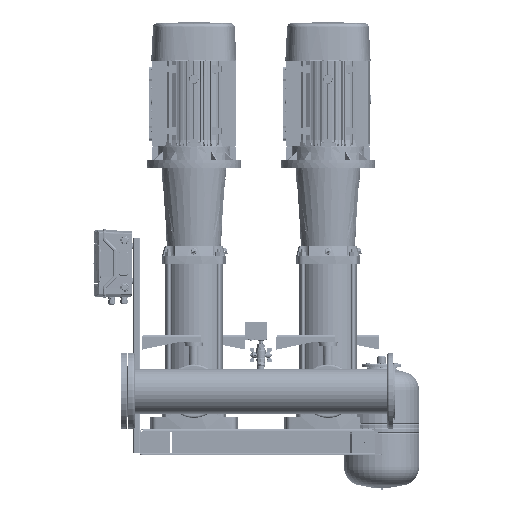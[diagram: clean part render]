
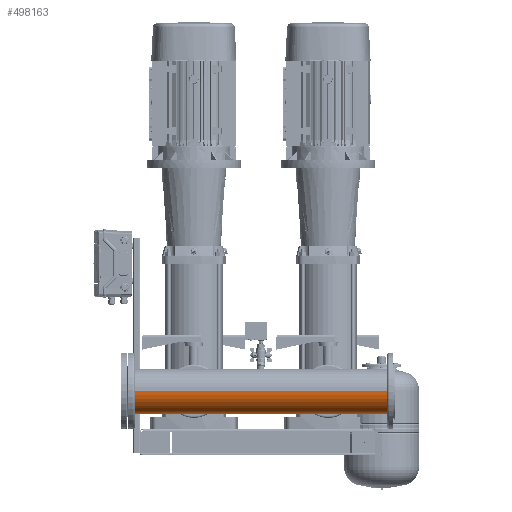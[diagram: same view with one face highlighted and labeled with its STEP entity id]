
A CAD part, front view. The second image highlights one B-rep face of the part: STEP entity #498163.
In plain terms, the highlighted cylindrical face has radius 84.15 mm (diameter 168.3 mm), a partial arc.
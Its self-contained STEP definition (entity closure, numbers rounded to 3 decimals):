
#497719=CARTESIAN_POINT('Vertex',(84.15,13.45,0.)) ;
#497726=CARTESIAN_POINT('Vertex',(84.15,-13.45,0.)) ;
#497730=CARTESIAN_POINT('Control Point',(84.15,13.45,0.)) ;
#497731=CARTESIAN_POINT('Control Point',(84.15,13.45,-2.294)) ;
#497732=CARTESIAN_POINT('Control Point',(84.072,12.961,-4.588)) ;
#497733=CARTESIAN_POINT('Control Point',(83.914,11.982,-6.738)) ;
#497734=CARTESIAN_POINT('Control Point',(83.513,9.057,-10.651)) ;
#497735=CARTESIAN_POINT('Control Point',(83.153,4.73,-12.969)) ;
#497736=CARTESIAN_POINT('Control Point',(83.036,2.218,-13.628)) ;
#497737=CARTESIAN_POINT('Control Point',(83.03,-2.819,-13.722)) ;
#497738=CARTESIAN_POINT('Control Point',(83.352,-7.382,-11.633)) ;
#497739=CARTESIAN_POINT('Control Point',(83.568,-9.344,-10.123)) ;
#497740=CARTESIAN_POINT('Control Point',(83.882,-11.727,-7.233)) ;
#497741=CARTESIAN_POINT('Control Point',(84.079,-13.004,-3.772)) ;
#497742=CARTESIAN_POINT('Control Point',(84.126,-13.301,-2.531)) ;
#497743=CARTESIAN_POINT('Control Point',(84.15,-13.45,-1.265)) ;
#497744=CARTESIAN_POINT('Control Point',(84.15,-13.45,0.)) ;
#497952=CARTESIAN_POINT('Axis2P3D Location',(0.,0.,0.)) ;
#497957=CARTESIAN_POINT('Line Origine',(84.15,0.,0.)) ;
#497961=CARTESIAN_POINT('Vertex',(84.15,205.55,0.)) ;
#497992=CARTESIAN_POINT('Vertex',(84.15,294.45,0.)) ;
#497995=CARTESIAN_POINT('Line Origine',(84.15,0.,0.)) ;
#497999=CARTESIAN_POINT('Vertex',(84.15,470.,0.)) ;
#498006=CARTESIAN_POINT('Vertex',(-84.15,470.,0.)) ;
#498009=CARTESIAN_POINT('Line Origine',(-84.15,0.,0.)) ;
#498013=CARTESIAN_POINT('Vertex',(-84.15,-470.,0.)) ;
#498020=CARTESIAN_POINT('Vertex',(84.15,-470.,0.)) ;
#498023=CARTESIAN_POINT('Line Origine',(84.15,0.,0.)) ;
#498027=CARTESIAN_POINT('Vertex',(84.15,-294.45,0.)) ;
#498058=CARTESIAN_POINT('Vertex',(84.15,-205.55,0.)) ;
#498061=CARTESIAN_POINT('Line Origine',(84.15,0.,0.)) ;
#498084=CARTESIAN_POINT('Control Point',(84.15,-205.55,0.)) ;
#498085=CARTESIAN_POINT('Control Point',(84.15,-205.55,-3.002)) ;
#498086=CARTESIAN_POINT('Control Point',(84.016,-205.803,-6.004)) ;
#498087=CARTESIAN_POINT('Control Point',(83.748,-206.31,-8.968)) ;
#498088=CARTESIAN_POINT('Control Point',(82.65,-208.419,-17.111)) ;
#498089=CARTESIAN_POINT('Control Point',(80.726,-212.326,-24.479)) ;
#498090=CARTESIAN_POINT('Control Point',(79.252,-215.497,-28.753)) ;
#498091=CARTESIAN_POINT('Control Point',(76.473,-222.162,-35.452)) ;
#498092=CARTESIAN_POINT('Control Point',(73.972,-230.372,-40.209)) ;
#498093=CARTESIAN_POINT('Control Point',(73.002,-234.259,-41.896)) ;
#498094=CARTESIAN_POINT('Control Point',(71.885,-240.535,-43.757)) ;
#498095=CARTESIAN_POINT('Control Point',(71.458,-247.08,-44.442)) ;
#498096=CARTESIAN_POINT('Control Point',(71.4,-249.36,-44.533)) ;
#498097=CARTESIAN_POINT('Control Point',(71.506,-256.235,-44.366)) ;
#498098=CARTESIAN_POINT('Control Point',(72.414,-262.951,-42.889)) ;
#498099=CARTESIAN_POINT('Control Point',(73.341,-267.228,-41.341)) ;
#498100=CARTESIAN_POINT('Control Point',(75.24,-274.026,-37.878)) ;
#498101=CARTESIAN_POINT('Control Point',(77.4,-279.873,-33.133)) ;
#498102=CARTESIAN_POINT('Control Point',(78.3,-282.109,-30.972)) ;
#498103=CARTESIAN_POINT('Control Point',(79.9,-285.835,-26.684)) ;
#498104=CARTESIAN_POINT('Control Point',(81.32,-288.853,-21.824)) ;
#498105=CARTESIAN_POINT('Control Point',(81.909,-290.063,-19.518)) ;
#498106=CARTESIAN_POINT('Control Point',(83.015,-292.28,-14.412)) ;
#498107=CARTESIAN_POINT('Control Point',(83.749,-293.691,-8.959)) ;
#498108=CARTESIAN_POINT('Control Point',(84.016,-294.197,-5.998)) ;
#498109=CARTESIAN_POINT('Control Point',(84.15,-294.45,-2.999)) ;
#498110=CARTESIAN_POINT('Control Point',(84.15,-294.45,0.)) ;
#498112=CARTESIAN_POINT('Axis2P3D Location',(0.,-470.,0.)) ;
#498117=CARTESIAN_POINT('Axis2P3D Location',(0.,470.,0.)) ;
#498123=CARTESIAN_POINT('Control Point',(84.15,294.45,0.)) ;
#498124=CARTESIAN_POINT('Control Point',(84.15,294.45,-3.002)) ;
#498125=CARTESIAN_POINT('Control Point',(84.016,294.197,-6.004)) ;
#498126=CARTESIAN_POINT('Control Point',(83.748,293.69,-8.968)) ;
#498127=CARTESIAN_POINT('Control Point',(82.65,291.581,-17.111)) ;
#498128=CARTESIAN_POINT('Control Point',(80.726,287.674,-24.479)) ;
#498129=CARTESIAN_POINT('Control Point',(79.252,284.503,-28.753)) ;
#498130=CARTESIAN_POINT('Control Point',(76.473,277.838,-35.452)) ;
#498131=CARTESIAN_POINT('Control Point',(73.972,269.628,-40.209)) ;
#498132=CARTESIAN_POINT('Control Point',(73.002,265.741,-41.896)) ;
#498133=CARTESIAN_POINT('Control Point',(71.885,259.465,-43.757)) ;
#498134=CARTESIAN_POINT('Control Point',(71.458,252.92,-44.442)) ;
#498135=CARTESIAN_POINT('Control Point',(71.4,250.64,-44.533)) ;
#498136=CARTESIAN_POINT('Control Point',(71.506,243.765,-44.366)) ;
#498137=CARTESIAN_POINT('Control Point',(72.414,237.049,-42.889)) ;
#498138=CARTESIAN_POINT('Control Point',(73.341,232.772,-41.341)) ;
#498139=CARTESIAN_POINT('Control Point',(75.24,225.974,-37.878)) ;
#498140=CARTESIAN_POINT('Control Point',(77.4,220.127,-33.133)) ;
#498141=CARTESIAN_POINT('Control Point',(78.3,217.891,-30.972)) ;
#498142=CARTESIAN_POINT('Control Point',(79.9,214.165,-26.684)) ;
#498143=CARTESIAN_POINT('Control Point',(81.32,211.147,-21.824)) ;
#498144=CARTESIAN_POINT('Control Point',(81.909,209.937,-19.518)) ;
#498145=CARTESIAN_POINT('Control Point',(83.015,207.72,-14.412)) ;
#498146=CARTESIAN_POINT('Control Point',(83.749,206.309,-8.959)) ;
#498147=CARTESIAN_POINT('Control Point',(84.016,205.803,-5.998)) ;
#498148=CARTESIAN_POINT('Control Point',(84.15,205.55,-2.999)) ;
#498149=CARTESIAN_POINT('Control Point',(84.15,205.55,0.)) ;
#497959=VECTOR('Line Direction',#497958,1.) ;
#497997=VECTOR('Line Direction',#497996,1.) ;
#498011=VECTOR('Line Direction',#498010,1.) ;
#498025=VECTOR('Line Direction',#498024,1.) ;
#498063=VECTOR('Line Direction',#498062,1.) ;
#497953=DIRECTION('Axis2P3D Direction',(0.,1.,-0.)) ;
#497954=DIRECTION('Axis2P3D XDirection',(-1.,0.,0.)) ;
#497958=DIRECTION('Vector Direction',(0.,1.,0.)) ;
#497996=DIRECTION('Vector Direction',(0.,1.,0.)) ;
#498010=DIRECTION('Vector Direction',(0.,1.,0.)) ;
#498024=DIRECTION('Vector Direction',(0.,1.,0.)) ;
#498062=DIRECTION('Vector Direction',(0.,1.,0.)) ;
#498113=DIRECTION('Axis2P3D Direction',(0.,1.,-0.)) ;
#498118=DIRECTION('Axis2P3D Direction',(0.,1.,-0.)) ;
#497955=AXIS2_PLACEMENT_3D('Cylinder Axis2P3D',#497952,#497953,#497954) ;
#498114=AXIS2_PLACEMENT_3D('Circle Axis2P3D',#498112,#498113,$) ;
#498119=AXIS2_PLACEMENT_3D('Circle Axis2P3D',#498117,#498118,$) ;
#497960=LINE('Line',#497957,#497959) ;
#497998=LINE('Line',#497995,#497997) ;
#498012=LINE('Line',#498009,#498011) ;
#498026=LINE('Line',#498023,#498025) ;
#498064=LINE('Line',#498061,#498063) ;
#498115=CIRCLE('generated circle',#498114,84.15) ;
#498120=CIRCLE('generated circle',#498119,84.15) ;
#497956=CYLINDRICAL_SURFACE('generated cylinder',#497955,84.15) ;
#497745=EDGE_CURVE('',#497720,#497727,#497729,.T.) ;
#497963=EDGE_CURVE('',#497720,#497962,#497960,.T.) ;
#498001=EDGE_CURVE('',#497993,#498000,#497998,.T.) ;
#498015=EDGE_CURVE('',#498014,#498007,#498012,.T.) ;
#498029=EDGE_CURVE('',#498021,#498028,#498026,.T.) ;
#498065=EDGE_CURVE('',#498059,#497727,#498064,.T.) ;
#498111=EDGE_CURVE('',#498059,#498028,#498083,.T.) ;
#498116=EDGE_CURVE('',#498021,#498014,#498115,.T.) ;
#498121=EDGE_CURVE('',#498000,#498007,#498120,.T.) ;
#498150=EDGE_CURVE('',#497993,#497962,#498122,.T.) ;
#498152=ORIENTED_EDGE('',*,*,#498065,.F.) ;
#498153=ORIENTED_EDGE('',*,*,#498111,.T.) ;
#498154=ORIENTED_EDGE('',*,*,#498029,.F.) ;
#498155=ORIENTED_EDGE('',*,*,#498116,.T.) ;
#498156=ORIENTED_EDGE('',*,*,#498015,.T.) ;
#498157=ORIENTED_EDGE('',*,*,#498121,.F.) ;
#498158=ORIENTED_EDGE('',*,*,#498001,.F.) ;
#498159=ORIENTED_EDGE('',*,*,#498150,.T.) ;
#498160=ORIENTED_EDGE('',*,*,#497963,.F.) ;
#498161=ORIENTED_EDGE('',*,*,#497745,.T.) ;
#498151=EDGE_LOOP('',(#498152,#498153,#498154,#498155,#498156,#498157,#498158,#498159,#498160,#498161)) ;
#497720=VERTEX_POINT('',#497719) ;
#497727=VERTEX_POINT('',#497726) ;
#497962=VERTEX_POINT('',#497961) ;
#497993=VERTEX_POINT('',#497992) ;
#498000=VERTEX_POINT('',#497999) ;
#498007=VERTEX_POINT('',#498006) ;
#498014=VERTEX_POINT('',#498013) ;
#498021=VERTEX_POINT('',#498020) ;
#498028=VERTEX_POINT('',#498027) ;
#498059=VERTEX_POINT('',#498058) ;
#498163=ADVANCED_FACE('PartBody',(#498162),#497956,.T.) ;
#497729=B_SPLINE_CURVE_WITH_KNOTS('',5,(#497730,#497731,#497732,#497733,#497734,#497735,#497736,#497737,#497738,#497739,#497740,#497741,#497742,#497743,#497744),.UNSPECIFIED.,.F.,.U.,(6,3,3,3,6),(0.,16.222,33.911,50.906,59.853),.UNSPECIFIED.) ;
#498083=B_SPLINE_CURVE_WITH_KNOTS('',5,(#498084,#498085,#498086,#498087,#498088,#498089,#498090,#498091,#498092,#498093,#498094,#498095,#498096,#498097,#498098,#498099,#498100,#498101,#498102,#498103,#498104,#498105,#498106,#498107,#498108,#498109,#498110),.UNSPECIFIED.,.F.,.U.,(6,3,3,3,3,3,3,3,6),(0.,21.226,59.746,90.173,106.258,138.671,161.447,180.249,201.454),.UNSPECIFIED.) ;
#498122=B_SPLINE_CURVE_WITH_KNOTS('',5,(#498123,#498124,#498125,#498126,#498127,#498128,#498129,#498130,#498131,#498132,#498133,#498134,#498135,#498136,#498137,#498138,#498139,#498140,#498141,#498142,#498143,#498144,#498145,#498146,#498147,#498148,#498149),.UNSPECIFIED.,.F.,.U.,(6,3,3,3,3,3,3,3,6),(0.,21.226,59.746,90.173,106.258,138.671,161.447,180.249,201.454),.UNSPECIFIED.) ;
#498162=FACE_OUTER_BOUND('',#498151,.T.) ;
